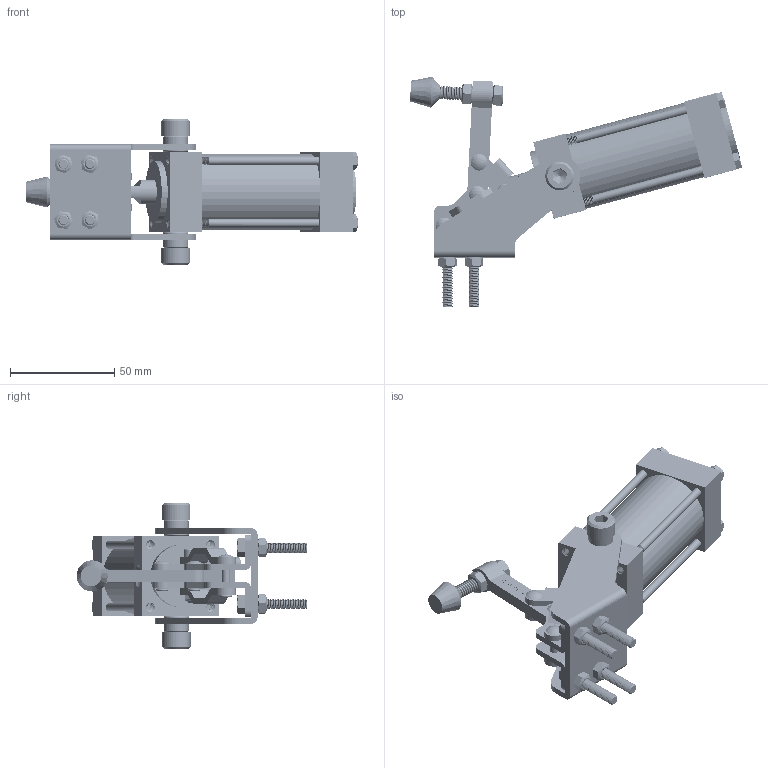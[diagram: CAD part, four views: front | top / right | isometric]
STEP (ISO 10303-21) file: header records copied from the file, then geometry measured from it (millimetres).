
FILE_DESCRIPTION(/* description */ ('STEP AP203'),/* implementation_level */ '2;1');
FILE_NAME(/* name */ 'D:\Vault_2016\Projekty\STRONA\Pneumatic toggle clamp\CH-12050-A\CH-12050-A_OTWARTY.stp',/* time_stamp */ '2019-01-29T11:35:38+01:00',/* author */ ('user'),/* organization */ ('Î¢ÈíÖÐ¹ú'),/* preprocessor_version */ 'ST-DEVELOPER v17.2',/* originating_system */ 'Autodesk Inventor 2019',/* authorisation */ '');
FILE_SCHEMA (('AUTOMOTIVE_DESIGN { 1 0 10303 214 3 1 1 }'));
Length unit declared in the file: millimetre
Products named in the file (19): CH-12050-A_OTWARTY; Air cylinder-2_Ä¬ÈÏ; CH-FC-14134_Ä¬ÈÏ; 12RIVET_Ä¬ÈÏ; CH-12050-02_Ä¬ÈÏ; Air cylinder-1_Ä¬ÈÏ; CH-12050-A-01_Ä¬ÈÏ; 1-4_Ä¬ÈÏ; 18RIVET_Ä¬ÈÏ; M4NUT_Ä¬ÈÏ; CH-12050-A-05_Ä¬ÈÏ; CH-36003-A-03_Ä¬ÈÏ; M8-15_Ä¬ÈÏ; CH-12050-01_Ä¬ÈÏ; M4-24_Ä¬ÈÏ; M5-30_Ä¬ÈÏ; M5_Ä¬ÈÏ; Air cylinder-3_Ä¬ÈÏ; CH-12050-A-04_Ä¬ÈÏ
Assembly tree (31 placements, depth 2):
  CH-12050-A_OTWARTY
    12RIVET_Ä¬ÈÏ  x2
    M8-15_Ä¬ÈÏ  x2
    Air cylinder-2_Ä¬ÈÏ
    CH-FC-14134_Ä¬ÈÏ
    CH-12050-02_Ä¬ÈÏ
    Air cylinder-1_Ä¬ÈÏ
    CH-12050-A-01_Ä¬ÈÏ
    1-4_Ä¬ÈÏ  x2
    M5-30_Ä¬ÈÏ  x4
    M5_Ä¬ÈÏ  x4
    18RIVET_Ä¬ÈÏ
    M4NUT_Ä¬ÈÏ
    Air cylinder-3_Ä¬ÈÏ  x4
    CH-12050-A-05_Ä¬ÈÏ
    CH-36003-A-03_Ä¬ÈÏ  x2
    CH-12050-01_Ä¬ÈÏ
    M4-24_Ä¬ÈÏ
    CH-12050-A-04_Ä¬ÈÏ
Bounding box: 159.61 x 110.98 x 70 mm (x, y, z)
Volume: 153290.8 mm3; surface area: 69206 mm2
Topology: 33 solids, 35 shells, 1194 faces, 3502 edges, 2432 vertices
Faces by surface type: plane 506, cylinder 361, bspline 228, cone 81, torus 15, sphere 3
Full cylindrical faces by diameter (mm): 1.005 x1, 1.217 x1, 4 x24, 4.1 x5, 4.2 x16, 5 x136, 5.1 x6, 5.2 x4, 5.3 x4, 6.4 x26, 6.8 x14, 7 x1, 8 x22, 8.1 x2, 9 x2, 12 x4, 12.1 x2, 13.8 x2, 30 x2, 37 x1
Entity records: 79717 total; most frequent: CARTESIAN_POINT 57417, ORIENTED_EDGE 5084, DIRECTION 3554, EDGE_CURVE 2542, VERTEX_POINT 1769, LINE 1224, VECTOR 1224, AXIS2_PLACEMENT_3D 1165
